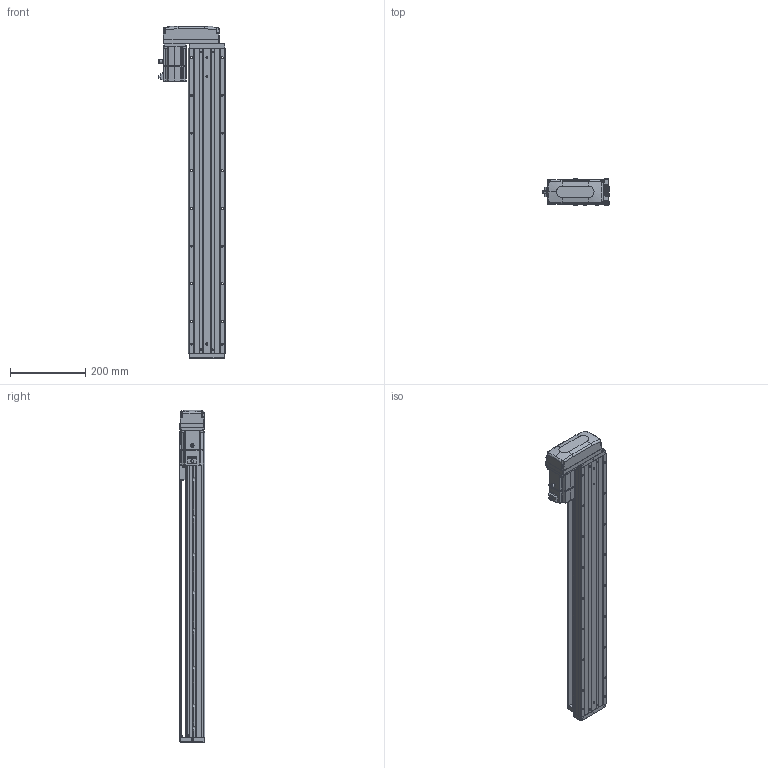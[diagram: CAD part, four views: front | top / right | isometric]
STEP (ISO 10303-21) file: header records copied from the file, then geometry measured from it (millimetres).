
FILE_DESCRIPTION (( 'STEP AP203' ), '1' );
FILE_NAME ('KTHA100-650-BR-M20-C4L.step', '2022-04-26T02:00:39', ( '微软用户' ), ( '微软中国' ), 'SwSTEP 2.0', 'SolidWorks 2020', '' );
FILE_SCHEMA (( 'CONFIG_CONTROL_DESIGN' ));
Length unit declared in the file: millimetre
Products named in the file (17): KTHA100-005; GBT70.1 M5℅16; GB¨uT 70.2-M3¡Á5_M3¡Á6; CTHA60-016; EE_SX911P_R; GBT 70.3-M3℅6; CTHA60-017; _X2_4E0983F1_X0_200W_1; KTHA100-001_810; CTHA60-021; CTHA86-015-1_CTHA86-015-2; KTHA100-002; GBT77-2000 M3×3; CTHA86-033; KTHA100-004; GBT 70.1-M3℅6; KTHA100-650-BR-M20-C4L
Assembly tree (57 placements, depth 2):
  KTHA100-650-BR-M20-C4L
    KTHA100-001_810
    KTHA100-002
    KTHA100-004
    KTHA100-005
    GB¨uT 70.2-M3¡Á5_M3¡Á6  x6
    EE_SX911P_R  x3
    CTHA60-017  x3
    CTHA60-021  x2
    GBT77-2000 M3×3  x6
    GBT 70.1-M3℅6  x10
    GBT70.1 M5℅16  x14
    CTHA60-016  x2
    GBT 70.3-M3℅6  x4
    _X2_4E0983F1_X0_200W_1
    CTHA86-015-1_CTHA86-015-2
    CTHA86-033
Bounding box: 178.52 x 68 x 881 mm (x, y, z)
Volume: 3870771.3 mm3; surface area: 631892.2 mm2
Topology: 60 solids, 60 shells, 2457 faces, 5889 edges, 3652 vertices
Faces by surface type: plane 1256, cylinder 683, cone 311, torus 116, bspline 75, sphere 16
Entity records: 42594 total; most frequent: CARTESIAN_POINT 8560, DIRECTION 6602, ORIENTED_EDGE 6390, EDGE_CURVE 3195, AXIS2_PLACEMENT_3D 2302, VERTEX_POINT 2012, LINE 1998, VECTOR 1998
